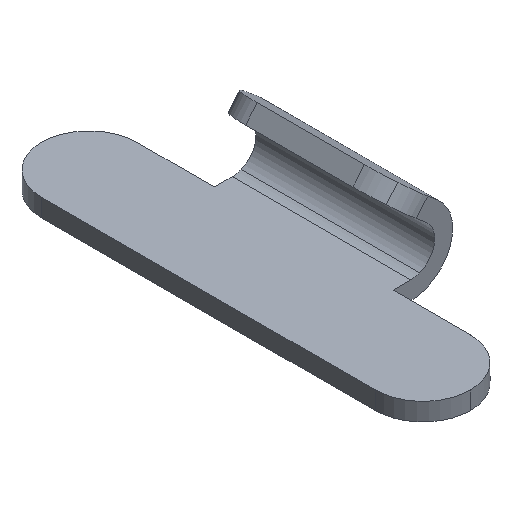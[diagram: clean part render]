
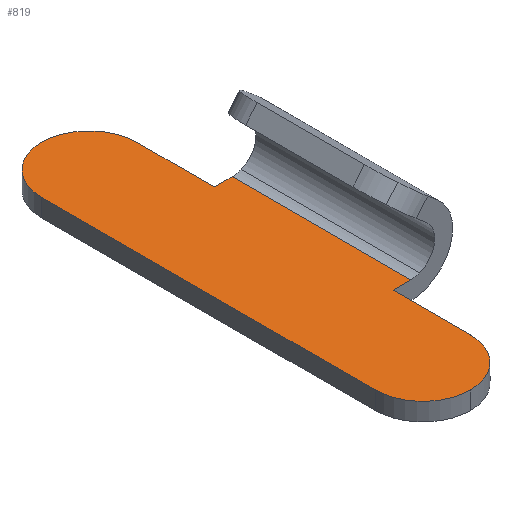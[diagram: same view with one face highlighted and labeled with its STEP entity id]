
A CAD part, isometric view. The second image highlights one B-rep face of the part: STEP entity #819.
In plain terms, the highlighted planar face has unit normal (0, 0, 1).
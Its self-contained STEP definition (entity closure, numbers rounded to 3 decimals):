
#141=CARTESIAN_POINT('',(-18.,6.529,0.75));
#142=VERTEX_POINT('',#141);
#151=CARTESIAN_POINT('',(-14.0,10.529,0.75));
#152=VERTEX_POINT('',#151);
#153=CARTESIAN_POINT('',(-14.0,6.529,0.75));
#154=DIRECTION('',(0.0,0.0,-1.0));
#155=DIRECTION('',(1.0,0.0,0.0));
#156=AXIS2_PLACEMENT_3D('',#153,#154,#155);
#157=CIRCLE('',#156,4.);
#158=EDGE_CURVE('',#142,#152,#157,.T.);
#185=CARTESIAN_POINT('',(18.0,6.529,0.75));
#186=VERTEX_POINT('',#185);
#202=CARTESIAN_POINT('',(14.0,10.529,0.75));
#203=VERTEX_POINT('',#202);
#210=CARTESIAN_POINT('',(14.0,6.529,0.75));
#211=DIRECTION('',(0.0,0.0,-1.0));
#212=DIRECTION('',(1.0,0.0,0.0));
#213=AXIS2_PLACEMENT_3D('',#210,#211,#212);
#214=CIRCLE('',#213,4.0);
#215=EDGE_CURVE('',#203,#186,#214,.T.);
#557=CARTESIAN_POINT('',(7.5,2.529,0.75));
#558=VERTEX_POINT('',#557);
#565=CARTESIAN_POINT('',(7.5,1.029,0.75));
#566=VERTEX_POINT('',#565);
#567=CARTESIAN_POINT('',(7.5,2.529,0.75));
#568=DIRECTION('',(0.0,-1.0,0.0));
#569=VECTOR('',#568,1.5);
#570=LINE('',#567,#569);
#571=EDGE_CURVE('',#558,#566,#570,.T.);
#592=CARTESIAN_POINT('',(-7.5,1.029,0.75));
#593=VERTEX_POINT('',#592);
#594=CARTESIAN_POINT('',(-7.5,1.029,0.75));
#595=DIRECTION('',(1.0,0.0,0.0));
#596=VECTOR('',#595,15.0);
#597=LINE('',#594,#596);
#598=EDGE_CURVE('',#593,#566,#597,.T.);
#671=CARTESIAN_POINT('',(-14.0,10.529,0.75));
#672=DIRECTION('',(1.0,0.0,0.0));
#673=VECTOR('',#672,28.0);
#674=LINE('',#671,#673);
#675=EDGE_CURVE('',#152,#203,#674,.T.);
#689=CARTESIAN_POINT('',(14.0,2.529,0.75));
#690=VERTEX_POINT('',#689);
#691=CARTESIAN_POINT('',(14.0,6.529,0.75));
#692=DIRECTION('',(0.0,0.0,-1.0));
#693=DIRECTION('',(1.0,0.0,0.0));
#694=AXIS2_PLACEMENT_3D('',#691,#692,#693);
#695=CIRCLE('',#694,4.0);
#696=EDGE_CURVE('',#186,#690,#695,.T.);
#713=CARTESIAN_POINT('',(14.0,2.529,0.75));
#714=DIRECTION('',(-1.0,0.0,0.0));
#715=VECTOR('',#714,6.5);
#716=LINE('',#713,#715);
#717=EDGE_CURVE('',#690,#558,#716,.T.);
#734=CARTESIAN_POINT('',(-7.5,2.529,0.75));
#735=VERTEX_POINT('',#734);
#736=CARTESIAN_POINT('',(-7.5,1.029,0.75));
#737=DIRECTION('',(0.0,1.0,0.0));
#738=VECTOR('',#737,1.5);
#739=LINE('',#736,#738);
#740=EDGE_CURVE('',#593,#735,#739,.T.);
#765=CARTESIAN_POINT('',(-14.0,2.529,0.75));
#766=VERTEX_POINT('',#765);
#767=CARTESIAN_POINT('',(-7.5,2.529,0.75));
#768=DIRECTION('',(-1.0,0.0,0.0));
#769=VECTOR('',#768,6.5);
#770=LINE('',#767,#769);
#771=EDGE_CURVE('',#735,#766,#770,.T.);
#792=CARTESIAN_POINT('',(-14.0,6.529,0.75));
#793=DIRECTION('',(0.0,0.0,-1.0));
#794=DIRECTION('',(1.0,0.0,0.0));
#795=AXIS2_PLACEMENT_3D('',#792,#793,#794);
#796=CIRCLE('',#795,4.);
#797=EDGE_CURVE('',#766,#142,#796,.T.);
#802=CARTESIAN_POINT('',(0.,2.139,0.75));
#803=DIRECTION('',(0.0,0.0,1.0));
#804=DIRECTION('',(1.0,0.0,0.0));
#805=AXIS2_PLACEMENT_3D('',#802,#803,#804);
#806=PLANE('',#805);
#807=ORIENTED_EDGE('',*,*,#598,.T.);
#808=ORIENTED_EDGE('',*,*,#571,.F.);
#809=ORIENTED_EDGE('',*,*,#717,.F.);
#810=ORIENTED_EDGE('',*,*,#696,.F.);
#811=ORIENTED_EDGE('',*,*,#215,.F.);
#812=ORIENTED_EDGE('',*,*,#675,.F.);
#813=ORIENTED_EDGE('',*,*,#158,.F.);
#814=ORIENTED_EDGE('',*,*,#797,.F.);
#815=ORIENTED_EDGE('',*,*,#771,.F.);
#816=ORIENTED_EDGE('',*,*,#740,.F.);
#817=EDGE_LOOP('',(#807,#808,#809,#810,#811,#812,#813,#814,#815,#816));
#818=FACE_OUTER_BOUND('',#817,.T.);
#819=ADVANCED_FACE('',(#818),#806,.T.);
